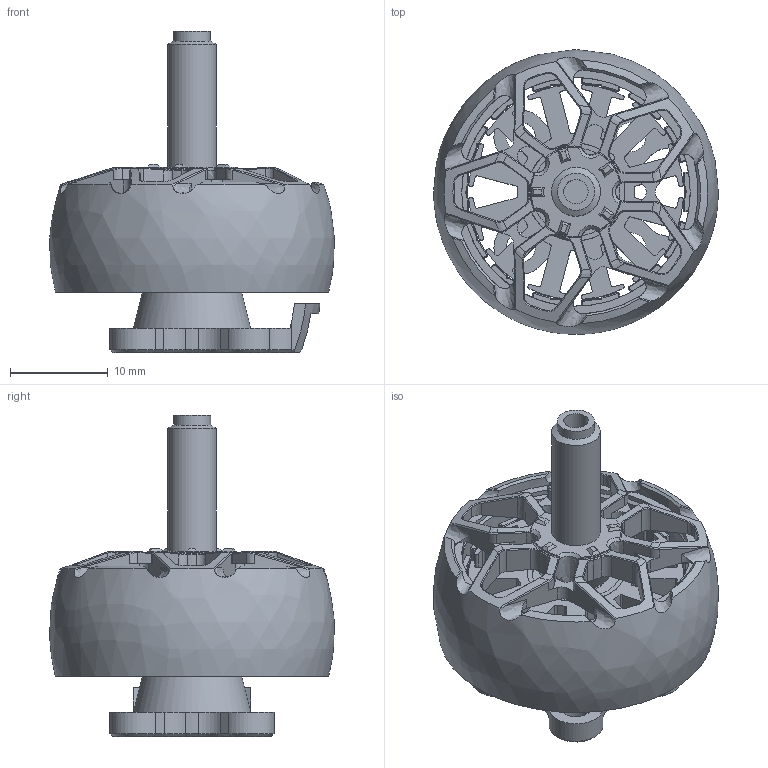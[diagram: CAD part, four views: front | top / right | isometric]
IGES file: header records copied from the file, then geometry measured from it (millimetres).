
Global section: file name: iFlight_XING2_2207; native system: AutoCAD 2024 - English; preprocessor: Autodesk Translation Framework DWG producer (atf_dwg_producer); organization: unknown; date: 20240627.202712; units: millimetre
Bounding box: 29.16 x 29.17 x 32.9 mm (x, y, z)
Volume: 5444.3 mm3; surface area: 11375.7 mm2
Topology: 25 solids, 25 shells, 1345 faces, 3380 edges, 2050 vertices
Faces by surface type: bspline 1345
